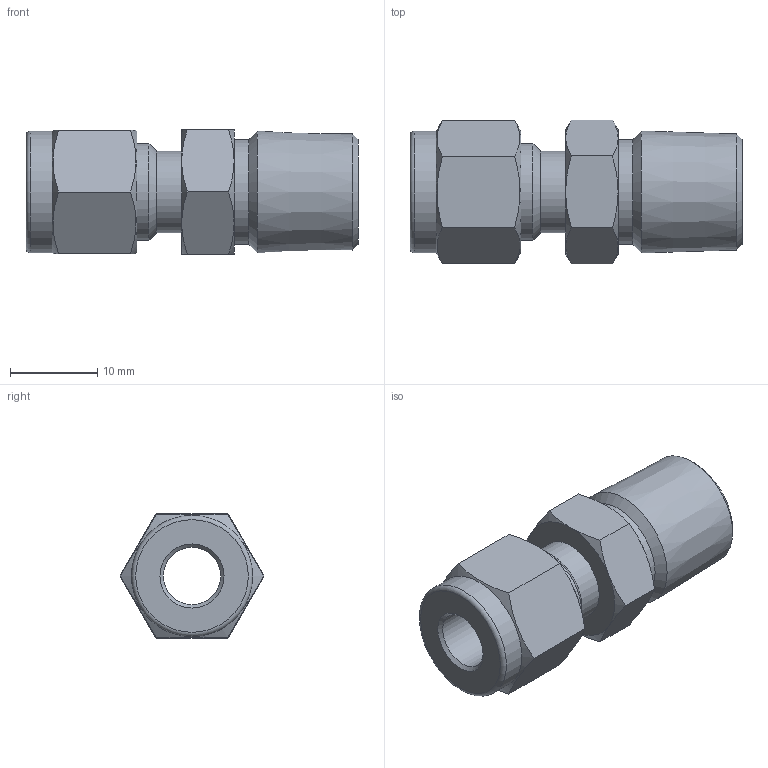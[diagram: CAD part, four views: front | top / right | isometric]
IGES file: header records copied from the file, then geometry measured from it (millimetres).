
Global section: file name: No Iges File Name specified; native system: Autodesk Inventor 2012; preprocessor: AutoDesk Inventor Iges Exporter R2012; author: 硅己绕,,1; organization: 1; date: 20150603.092956; units: millimetre
Bounding box: 38.04 x 16.5 x 14.29 mm (x, y, z)
Volume: 4303.8 mm3; surface area: 2900.4 mm2
Topology: 1 solids, 1 shells, 44 faces, 92 edges, 54 vertices
Faces by surface type: plane 18, cone 18, cylinder 4, revolution 3, torus 1
Full cylindrical faces by diameter (mm): 9.3 x1, 11.112 x1, 12 x1, 13.9 x1
